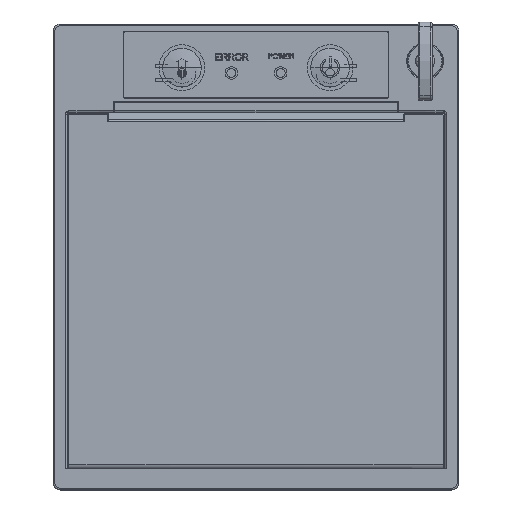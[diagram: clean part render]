
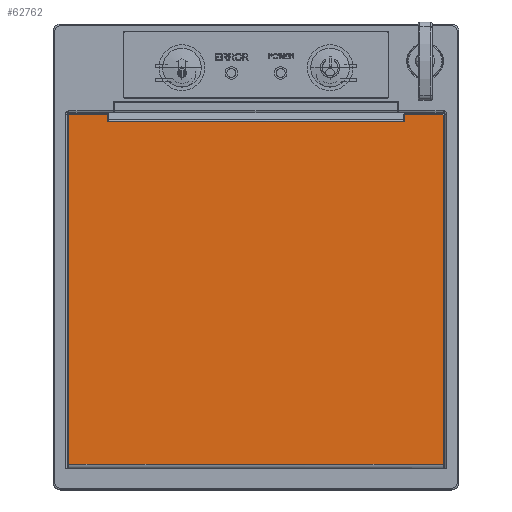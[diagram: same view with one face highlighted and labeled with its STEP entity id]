
A CAD part, front view. The second image highlights one B-rep face of the part: STEP entity #62762.
In plain terms, the highlighted planar face has unit normal (0, -1, 0).
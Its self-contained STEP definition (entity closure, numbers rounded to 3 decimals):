
#54261=DIRECTION('',(0.,0.,-1.));
#54262=VECTOR('',#54261,98.906);
#54263=CARTESIAN_POINT('',(53.029,-2.,40.234));
#54264=LINE('',#54263,#54262);
#54265=DIRECTION('',(1.,0.,0.));
#54266=VECTOR('',#54265,84.079);
#54267=CARTESIAN_POINT('',(-31.05,-2.,-58.672));
#54268=LINE('',#54267,#54266);
#54269=DIRECTION('',(0.,0.,1.));
#54270=VECTOR('',#54269,98.906);
#54271=CARTESIAN_POINT('',(-53.029,-2.,-58.672));
#54272=LINE('',#54271,#54270);
#54273=CARTESIAN_POINT('',(-53.029,-2.,40.234));
#54274=CARTESIAN_POINT('',(-53.029,-2.,40.242));
#54275=CARTESIAN_POINT('',(-53.028,-2.,40.259));
#54276=CARTESIAN_POINT('',(-53.023,-2.,40.285));
#54277=CARTESIAN_POINT('',(-53.014,-2.,40.312));
#54278=CARTESIAN_POINT('',(-53.,-2.,40.339));
#54279=CARTESIAN_POINT('',(-52.98,-2.,40.366));
#54280=CARTESIAN_POINT('',(-52.957,-2.,40.388));
#54281=CARTESIAN_POINT('',(-52.936,-2.,40.403));
#54282=CARTESIAN_POINT('',(-52.914,-2.,40.415));
#54283=CARTESIAN_POINT('',(-52.891,-2.,40.425));
#54284=CARTESIAN_POINT('',(-52.864,-2.,40.432));
#54285=CARTESIAN_POINT('',(-52.841,-2.,40.434));
#54286=CARTESIAN_POINT('',(-52.829,-2.,40.434));
#54288=DIRECTION('',(1.,0.,0.));
#54289=VECTOR('',#54288,10.529);
#54290=CARTESIAN_POINT('',(-52.829,-2.,40.434));
#54291=LINE('',#54290,#54289);
#54292=CARTESIAN_POINT('',(-42.3,-2.,40.434));
#54293=CARTESIAN_POINT('',(-42.291,-2.,40.434));
#54294=CARTESIAN_POINT('',(-42.274,-2.,40.433));
#54295=CARTESIAN_POINT('',(-42.248,-2.,40.428));
#54296=CARTESIAN_POINT('',(-42.222,-2.,40.419));
#54297=CARTESIAN_POINT('',(-42.194,-2.,40.405));
#54298=CARTESIAN_POINT('',(-42.167,-2.,40.385));
#54299=CARTESIAN_POINT('',(-42.146,-2.,40.362));
#54300=CARTESIAN_POINT('',(-42.13,-2.,40.341));
#54301=CARTESIAN_POINT('',(-42.119,-2.,40.319));
#54302=CARTESIAN_POINT('',(-42.109,-2.,40.296));
#54303=CARTESIAN_POINT('',(-42.102,-2.,40.269));
#54304=CARTESIAN_POINT('',(-42.1,-2.,40.246));
#54305=CARTESIAN_POINT('',(-42.1,-2.,40.234));
#54307=DIRECTION('',(0.,0.,-1.));
#54308=VECTOR('',#54307,1.773);
#54309=CARTESIAN_POINT('',(-42.1,-2.,40.234));
#54310=LINE('',#54309,#54308);
#54311=DIRECTION('',(0.,0.,1.));
#54312=VECTOR('',#54311,1.773);
#54313=CARTESIAN_POINT('',(42.1,-2.,38.46));
#54314=LINE('',#54313,#54312);
#54315=CARTESIAN_POINT('',(42.1,-2.,40.234));
#54316=CARTESIAN_POINT('',(42.1,-2.,40.243));
#54317=CARTESIAN_POINT('',(42.101,-2.,40.261));
#54318=CARTESIAN_POINT('',(42.107,-2.,40.289));
#54319=CARTESIAN_POINT('',(42.118,-2.,40.319));
#54320=CARTESIAN_POINT('',(42.135,-2.,40.349));
#54321=CARTESIAN_POINT('',(42.161,-2.,40.379));
#54322=CARTESIAN_POINT('',(42.196,-2.,40.407));
#54323=CARTESIAN_POINT('',(42.243,-2.,40.428));
#54324=CARTESIAN_POINT('',(42.28,-2.,40.434));
#54325=CARTESIAN_POINT('',(42.3,-2.,40.434));
#54327=DIRECTION('',(1.,0.,0.));
#54328=VECTOR('',#54327,10.529);
#54329=CARTESIAN_POINT('',(42.3,-2.,40.434));
#54330=LINE('',#54329,#54328);
#54331=CARTESIAN_POINT('',(52.829,-2.,40.434));
#54332=CARTESIAN_POINT('',(52.837,-2.,40.434));
#54333=CARTESIAN_POINT('',(52.855,-2.,40.433));
#54334=CARTESIAN_POINT('',(52.881,-2.,40.428));
#54335=CARTESIAN_POINT('',(52.907,-2.,40.419));
#54336=CARTESIAN_POINT('',(52.935,-2.,40.405));
#54337=CARTESIAN_POINT('',(52.962,-2.,40.385));
#54338=CARTESIAN_POINT('',(52.983,-2.,40.362));
#54339=CARTESIAN_POINT('',(52.999,-2.,40.341));
#54340=CARTESIAN_POINT('',(53.01,-2.,40.319));
#54341=CARTESIAN_POINT('',(53.02,-2.,40.296));
#54342=CARTESIAN_POINT('',(53.027,-2.,40.268));
#54343=CARTESIAN_POINT('',(53.029,-2.,40.246));
#54344=CARTESIAN_POINT('',(53.029,-2.,40.234));
#54583=CARTESIAN_POINT('',(53.029,-2.,-58.672));
#54602=DIRECTION('',(1.,0.,0.));
#54603=VECTOR('',#54602,21.179);
#54604=CARTESIAN_POINT('',(-53.029,-2.,-58.672));
#54605=LINE('',#54604,#54603);
#54606=CARTESIAN_POINT('',(-31.85,-2.,-58.672));
#54607=CARTESIAN_POINT('',(-31.716,-2.,-58.68));
#54608=CARTESIAN_POINT('',(-31.449,-2.,
-58.697));
#54609=CARTESIAN_POINT('',(-31.183,-2.,
-58.713));
#54610=CARTESIAN_POINT('',(-31.05,-2.,-58.721));
#54612=CARTESIAN_POINT('',(-31.05,-2.,-58.721));
#54613=CARTESIAN_POINT('',(-31.05,-2.,-58.716));
#54614=CARTESIAN_POINT('',(-31.05,-2.,-58.705));
#54615=CARTESIAN_POINT('',(-31.05,-2.,-58.689));
#54616=CARTESIAN_POINT('',(-31.05,-2.,-58.678));
#54617=CARTESIAN_POINT('',(-31.05,-2.,-58.672));
#58300=DIRECTION('',(-1.,0.,0.));
#58301=VECTOR('',#58300,84.2);
#58302=CARTESIAN_POINT('',(42.1,-2.,38.46));
#58303=LINE('',#58302,#58301);
#62007=VERTEX_POINT('',#54612);
#62008=VERTEX_POINT('',#54617);
#62009=VERTEX_POINT('',#54606);
#62155=VERTEX_POINT('',#54583);
#62158=CARTESIAN_POINT('',(53.029,-2.,40.234));
#62159=VERTEX_POINT('',#62158);
#62161=VERTEX_POINT('',#54331);
#62164=CARTESIAN_POINT('',(42.3,-2.,40.434));
#62165=VERTEX_POINT('',#62164);
#62167=VERTEX_POINT('',#54315);
#62170=CARTESIAN_POINT('',(42.1,-2.,38.46));
#62171=VERTEX_POINT('',#62170);
#62172=CARTESIAN_POINT('',(-42.1,-2.,40.234));
#62173=CARTESIAN_POINT('',(-42.1,-2.,38.46));
#62174=VERTEX_POINT('',#62172);
#62175=VERTEX_POINT('',#62173);
#62181=VERTEX_POINT('',#54292);
#62184=CARTESIAN_POINT('',(-52.829,-2.,40.434));
#62185=VERTEX_POINT('',#62184);
#62187=VERTEX_POINT('',#54273);
#62190=CARTESIAN_POINT('',(-53.029,-2.,-58.672));
#62191=VERTEX_POINT('',#62190);
#62725=CARTESIAN_POINT('',(0.,-2.,0.));
#62726=DIRECTION('',(0.,1.,0.));
#62727=DIRECTION('',(0.,0.,1.));
#62728=AXIS2_PLACEMENT_3D('',#62725,#62726,#62727);
#62729=PLANE('',#62728);
#62731=ORIENTED_EDGE('',*,*,#62730,.T.);
#62733=ORIENTED_EDGE('',*,*,#62732,.F.);
#62735=ORIENTED_EDGE('',*,*,#62734,.F.);
#62737=ORIENTED_EDGE('',*,*,#62736,.F.);
#62739=ORIENTED_EDGE('',*,*,#62738,.F.);
#62741=ORIENTED_EDGE('',*,*,#62740,.T.);
#62743=ORIENTED_EDGE('',*,*,#62742,.T.);
#62745=ORIENTED_EDGE('',*,*,#62744,.T.);
#62747=ORIENTED_EDGE('',*,*,#62746,.T.);
#62749=ORIENTED_EDGE('',*,*,#62748,.T.);
#62751=ORIENTED_EDGE('',*,*,#62750,.F.);
#62753=ORIENTED_EDGE('',*,*,#62752,.T.);
#62755=ORIENTED_EDGE('',*,*,#62754,.T.);
#62757=ORIENTED_EDGE('',*,*,#62756,.T.);
#62759=ORIENTED_EDGE('',*,*,#62758,.T.);
#62760=EDGE_LOOP('',(#62731,#62733,#62735,#62737,#62739,#62741,#62743,#62745,
#62747,#62749,#62751,#62753,#62755,#62757,#62759));
#62761=FACE_OUTER_BOUND('',#62760,.F.);
#62762=ADVANCED_FACE('',(#62761),#62729,.F.);
#54287=B_SPLINE_CURVE_WITH_KNOTS('',3,(#54273,#54274,#54275,#54276,#54277,
#54278,#54279,#54280,#54281,#54282,#54283,#54284,#54285,#54286),.UNSPECIFIED.,
.F.,.F.,(4,1,1,1,1,1,1,1,1,1,1,4),(0.,0.091,0.182,
0.273,0.364,0.455,0.545,
0.636,0.727,0.818,0.909,1.),
.UNSPECIFIED.);
#54306=B_SPLINE_CURVE_WITH_KNOTS('',3,(#54292,#54293,#54294,#54295,#54296,
#54297,#54298,#54299,#54300,#54301,#54302,#54303,#54304,#54305),.UNSPECIFIED.,
.F.,.F.,(4,1,1,1,1,1,1,1,1,1,1,4),(0.,0.091,0.182,
0.273,0.364,0.455,0.545,
0.636,0.727,0.818,0.909,1.),
.UNSPECIFIED.);
#54326=B_SPLINE_CURVE_WITH_KNOTS('',3,(#54315,#54316,#54317,#54318,#54319,
#54320,#54321,#54322,#54323,#54324,#54325),.UNSPECIFIED.,.F.,.F.,(4,1,1,1,1,1,1,
1,4),(0.,0.125,0.25,0.375,0.5,0.625,0.75,0.875,1.),
.UNSPECIFIED.);
#54345=B_SPLINE_CURVE_WITH_KNOTS('',3,(#54331,#54332,#54333,#54334,#54335,
#54336,#54337,#54338,#54339,#54340,#54341,#54342,#54343,#54344),.UNSPECIFIED.,
.F.,.F.,(4,1,1,1,1,1,1,1,1,1,1,4),(0.,0.091,0.182,
0.273,0.364,0.455,0.545,
0.636,0.727,0.818,0.909,1.),
.UNSPECIFIED.);
#54611=B_SPLINE_CURVE_WITH_KNOTS('',3,(#54606,#54607,#54608,#54609,#54610),
.UNSPECIFIED.,.F.,.F.,(4,1,4),(0.,0.5,1.),.UNSPECIFIED.);
#54618=B_SPLINE_CURVE_WITH_KNOTS('',3,(#54612,#54613,#54614,#54615,#54616,
#54617),.UNSPECIFIED.,.F.,.F.,(4,1,1,4),(0.,0.333,
0.667,1.),.UNSPECIFIED.);
#62730=EDGE_CURVE('',#62159,#62155,#54264,.T.);
#62732=EDGE_CURVE('',#62008,#62155,#54268,.T.);
#62734=EDGE_CURVE('',#62007,#62008,#54618,.T.);
#62736=EDGE_CURVE('',#62009,#62007,#54611,.T.);
#62738=EDGE_CURVE('',#62191,#62009,#54605,.T.);
#62740=EDGE_CURVE('',#62191,#62187,#54272,.T.);
#62742=EDGE_CURVE('',#62187,#62185,#54287,.T.);
#62744=EDGE_CURVE('',#62185,#62181,#54291,.T.);
#62746=EDGE_CURVE('',#62181,#62174,#54306,.T.);
#62748=EDGE_CURVE('',#62174,#62175,#54310,.T.);
#62750=EDGE_CURVE('',#62171,#62175,#58303,.T.);
#62752=EDGE_CURVE('',#62171,#62167,#54314,.T.);
#62754=EDGE_CURVE('',#62167,#62165,#54326,.T.);
#62756=EDGE_CURVE('',#62165,#62161,#54330,.T.);
#62758=EDGE_CURVE('',#62161,#62159,#54345,.T.);
